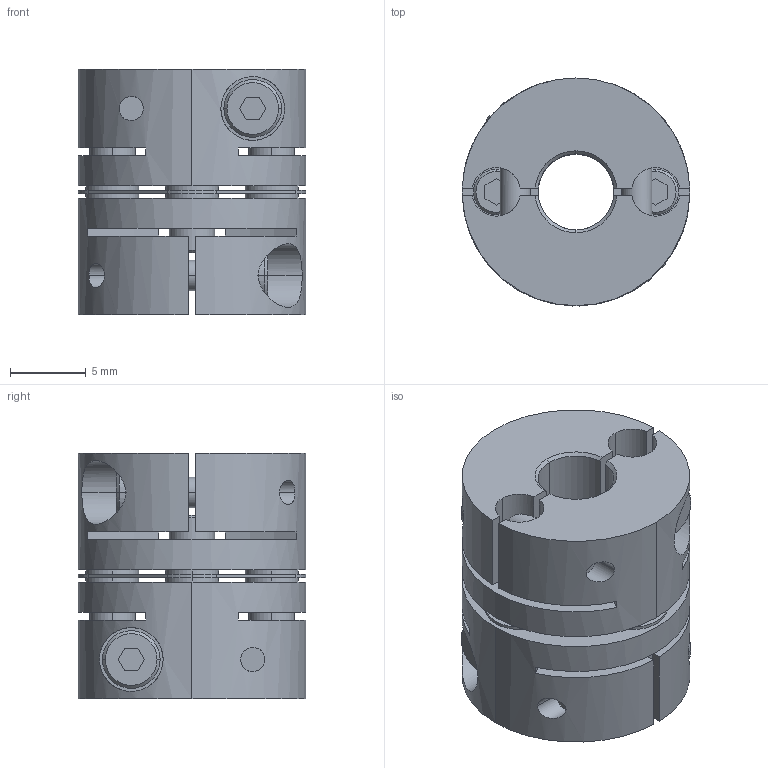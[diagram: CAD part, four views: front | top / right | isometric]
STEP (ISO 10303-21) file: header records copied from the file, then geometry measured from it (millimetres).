
FILE_DESCRIPTION((''),'2;1');
FILE_NAME('LAS-15C-5×5.stp','2011-08-09T14:17:54',(''),(''),'AutoCAD STEP 2000i','AutoCAD 2000i',', , ');
FILE_SCHEMA(('CONFIG_CONTROL_DESIGN'));
Length unit declared in the file: millimetre
Products named in the file (5): LAS-15C-3×3; 忣兜1; LA-1502-D03-1; LA-1502-D03; LAS15-ITA
Assembly tree (4 placements, depth 2):
  LAS-15C-3×3
    忣兜1
    LA-1502-D03-1
    LA-1502-D03
    LAS15-ITA
Bounding box: 15 x 15 x 16.2 mm (x, y, z)
Volume: 2115.6 mm3; surface area: 2682 mm2
Topology: 1 solids, 1 shells, 236 faces, 624 edges, 408 vertices
Faces by surface type: plane 112, cylinder 96, cone 28
Entity records: 8155 total; most frequent: CARTESIAN_POINT 1961, DIRECTION 1302, ORIENTED_EDGE 1248, EDGE_CURVE 624, AXIS2_PLACEMENT_3D 477, VERTEX_POINT 408, VECTOR 348, LINE 348
